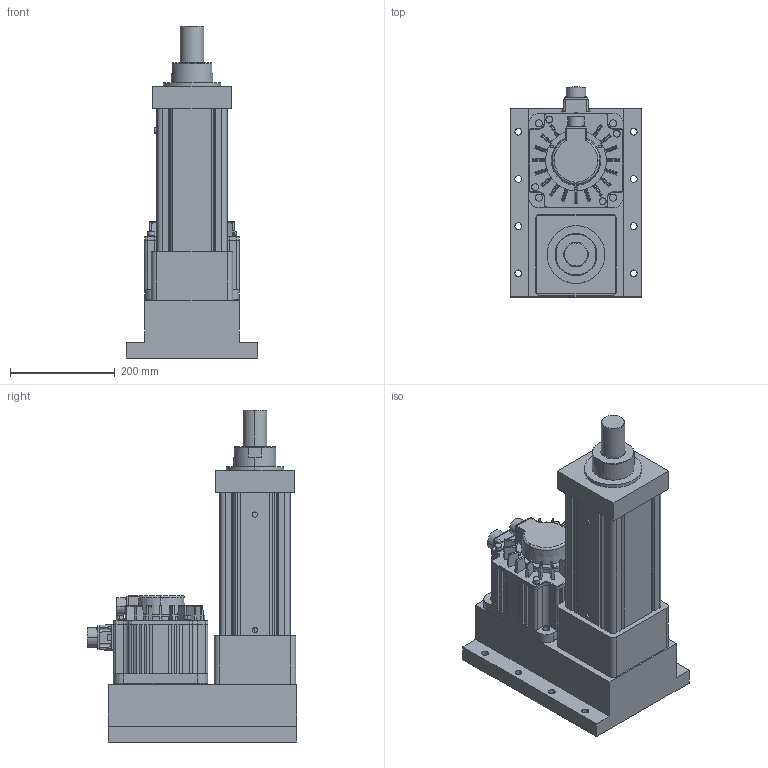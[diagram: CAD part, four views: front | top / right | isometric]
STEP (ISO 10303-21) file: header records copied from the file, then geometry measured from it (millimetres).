
FILE_DESCRIPTION (( 'STEP AP203' ), '1' );
FILE_NAME ('S5殏殿綴楊擘假蚾.STEP', '2024-08-15T02:33:03', ( '' ), ( '' ), 'SwSTEP 2.0', 'SolidWorks 2018', '' );
FILE_SCHEMA (( 'CONFIG_CONTROL_DESIGN' ));
Length unit declared in the file: millimetre
Products named in the file (3): ECMA-EX1820RS-180框號系列機種-2KW中慣量系列; S5殏殿綴楊擘假蚾; S5殏殿綴楊擘
Assembly tree (2 placements, depth 2):
  S5殏殿綴楊擘假蚾
    S5殏殿綴楊擘
    ECMA-EX1820RS-180框號系列機種-2KW中慣量系列
Bounding box: 250 x 400.02 x 633 mm (x, y, z)
Volume: 16392478.5 mm3; surface area: 1104771.1 mm2
Topology: 3 solids, 15 shells, 925 faces, 2213 edges, 1397 vertices
Faces by surface type: plane 490, cylinder 330, cone 62, bspline 27, torus 16
Entity records: 29031 total; most frequent: CARTESIAN_POINT 7178, DIRECTION 4486, ORIENTED_EDGE 4422, EDGE_CURVE 2211, AXIS2_PLACEMENT_3D 1565, VERTEX_POINT 1397, VECTOR 1356, LINE 1356
